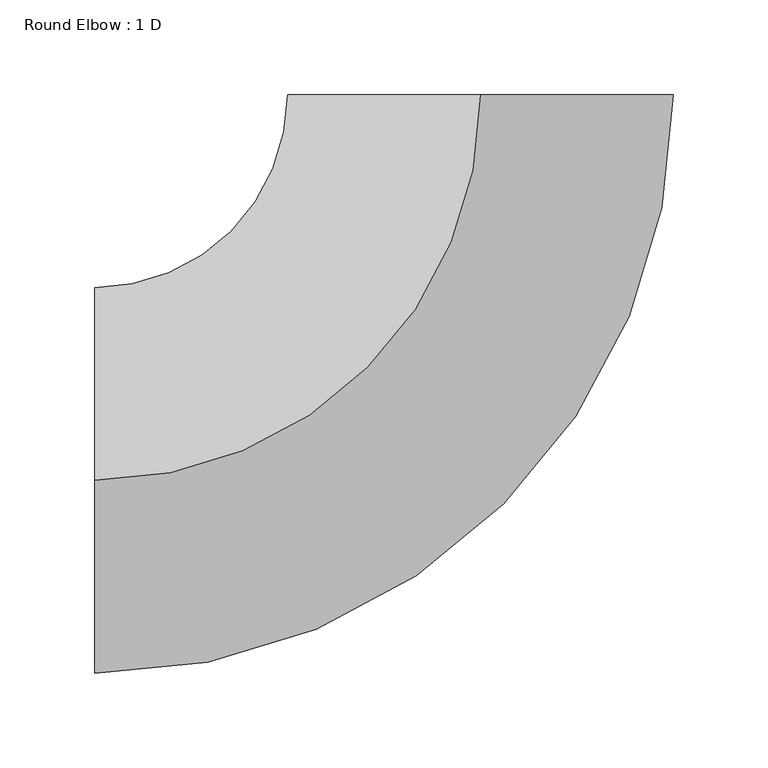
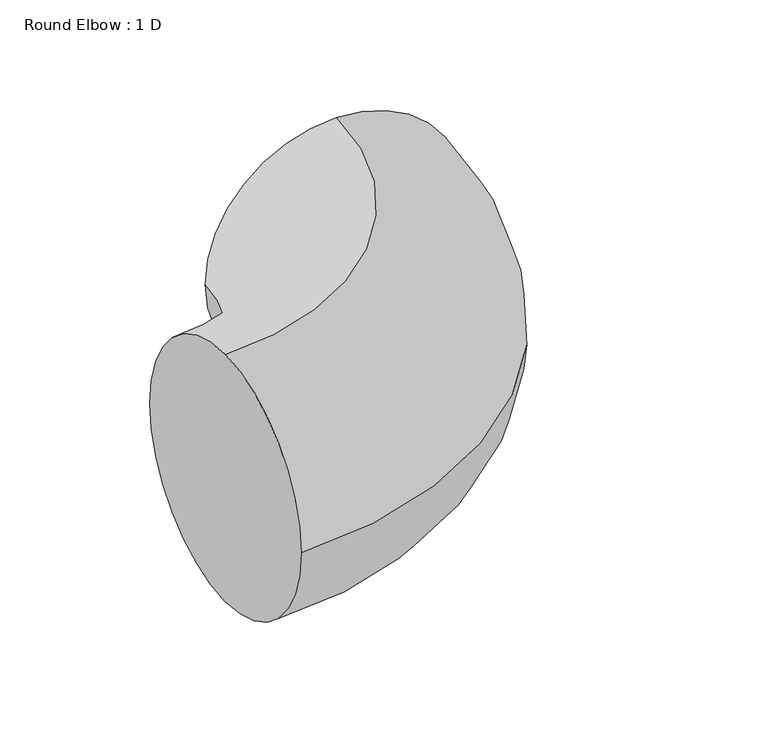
"""IFC4 building model written with IfcOpenShell, lengths in millimetres: duct fitting geometry, Round Elbow : 1 D."""

from ifc_helpers import new_model, si_unit, point, frame, origin, place, context, project, spatial, circle_curve, ellipse_curve, trimmed, source, transform, mapped, element, save
from ifc_brep_helpers import plane_surface, revolved_surface, advanced_brep


def round_elbow_1_d_a253342a(model_context):
    return source(origin(), model_context, "Body", "AdvancedBrep", [
        advanced_brep(
        [(-203.2, 0.0, 101.6), (-203.2, 101.6, 0.0), (-203.2, 0.0, -101.6), (-203.2, -101.6, 0.0), (0.0, 203.2, 101.6), (101.6, 203.2, 0.0), (0.0, 203.2, -101.6), (-101.6, 203.2, 0.0)],
        [
            (0, 1, circle_curve(frame((-203.2, 0.0, 0.0), z_axis=(-1.0, 0.0, 0.0), x_axis=(0.0, 1.0, 0.0)), 101.6)),
            (1, 2, circle_curve(frame((-203.2, 0.0, 0.0), z_axis=(-1.0, 0.0, 0.0), x_axis=(0.0, 1.0, 0.0)), 101.6)),
            (2, 3, circle_curve(frame((-203.2, 0.0, 0.0), z_axis=(-1.0, 0.0, 0.0), x_axis=(0.0, 1.0, 0.0)), 101.6)),
            (3, 0, circle_curve(frame((-203.2, 0.0, 0.0), z_axis=(-1.0, 0.0, 0.0), x_axis=(0.0, 1.0, 0.0)), 101.6)),
            (4, 5, circle_curve(frame((0.0, 203.2, 0.0), z_axis=(0.0, 1.0, 0.0), x_axis=(-1.0, 0.0, 0.0)), 101.6)),
            (5, 6, circle_curve(frame((0.0, 203.2, 0.0), z_axis=(0.0, 1.0, 0.0), x_axis=(-1.0, 0.0, 0.0)), 101.6)),
            (6, 7, circle_curve(frame((0.0, 203.2, 0.0), z_axis=(0.0, 1.0, 0.0), x_axis=(-1.0, 0.0, 0.0)), 101.6)),
            (7, 4, circle_curve(frame((0.0, 203.2, 0.0), z_axis=(0.0, 1.0, 0.0), x_axis=(-1.0, 0.0, 0.0)), 101.6)),
            (7, 1, circle_curve(frame((-203.2, 203.2, 0.0), z_axis=(0.0, 0.0, -1.0), x_axis=(0.0, -1.0, 0.0)), 101.6)),
            (0, 4, circle_curve(frame((-203.2, 203.2, 101.6), z_axis=(0.0, 0.0, 1.0), x_axis=(0.0, -1.0, 0.0)), 203.2)),
            (6, 2, circle_curve(frame((-203.2, 203.2, -101.6), z_axis=(0.0, 0.0, -1.0), x_axis=(0.0, -1.0, 0.0)), 203.2)),
            (5, 3, circle_curve(frame((-203.2, 203.2, 0.0), z_axis=(0.0, 0.0, -1.0), x_axis=(0.0, -1.0, 0.0)), 304.8)),
        ],
        [
            plane_surface(frame((-203.2, 0.0, 0.0), z_axis=(-1.0, 0.0, 0.0), x_axis=(0.0, 0.0, 1.0))),
            plane_surface(frame((0.0, 203.2, 0.0), z_axis=(0.0, 1.0, 0.0), x_axis=(0.0, 0.0, 1.0))),
            revolved_surface(trimmed(ellipse_curve(frame((-203.2, 0.0, 0.0), z_axis=(-1.0, 0.0, 0.0), x_axis=(0.0, 1.0, 0.0)), 101.6, 101.6), [point((-203.2, 0.0, 101.6))], [point((-203.2, 101.6, 0.0))], True, "CARTESIAN"), (-203.2, 203.2, 0.0), (0.0, 0.0, 1.0)),
            revolved_surface(trimmed(ellipse_curve(frame((-203.2, 0.0, 0.0), z_axis=(-1.0, 0.0, 0.0), x_axis=(0.0, 1.0, 0.0)), 101.6, 101.6), [point((-203.2, 101.6, 0.0))], [point((-203.2, 0.0, -101.6))], True, "CARTESIAN"), (-203.2, 203.2, 0.0), (0.0, 0.0, 1.0)),
            revolved_surface(trimmed(ellipse_curve(frame((-203.2, 0.0, 0.0), z_axis=(-1.0, 0.0, 0.0), x_axis=(0.0, 1.0, 0.0)), 101.6, 101.6), [point((-203.2, 0.0, -101.6))], [point((-203.2, -101.6, 0.0))], True, "CARTESIAN"), (-203.2, 203.2, 0.0), (0.0, 0.0, 1.0)),
            revolved_surface(trimmed(ellipse_curve(frame((-203.2, 0.0, 0.0), z_axis=(-1.0, 0.0, 0.0), x_axis=(0.0, 1.0, 0.0)), 101.6, 101.6), [point((-203.2, -101.6, 0.0))], [point((-203.2, 0.0, 101.6))], True, "CARTESIAN"), (-203.2, 203.2, 0.0), (0.0, 0.0, 1.0)),
        ],
        [
            (0, [[1, 2, 3, 4]]),
            (1, [[5, 6, 7, 8]]),
            (2, [[9, -1, 10, -8]]),
            (3, [[11, -2, -9, -7]]),
            (4, [[12, -3, -11, -6]]),
            (5, [[-10, -4, -12, -5]]),
        ],
    ),
    ])


if __name__ == "__main__":
    model = new_model("IFC4")
    model_context = context("Model", 3, world=origin())
    ifc_project = project(units=[si_unit("LENGTHUNIT", "METRE", prefix="MILLI")], contexts=[model_context])
    site = spatial("IfcSite", under=ifc_project)
    building = spatial("IfcBuilding", under=site)
    placement = place(None, origin())
    round_elbow_1_d_shape = round_elbow_1_d_a253342a(model_context)
    element("IfcDuctFitting", 1, ObjectType="Round Elbow : 1 D", at=placement, inside=building, context=model_context, shape_type="MappedRepresentation", body=[
        mapped(round_elbow_1_d_shape, transform((0.0, 0.0, 0.0), x_axis=(1.0, 0.0, 0.0), y_axis=(0.0, 1.0, 0.0), z_axis=(0.0, 0.0, 1.0))),
    ])
    save(model, "model.ifc")
